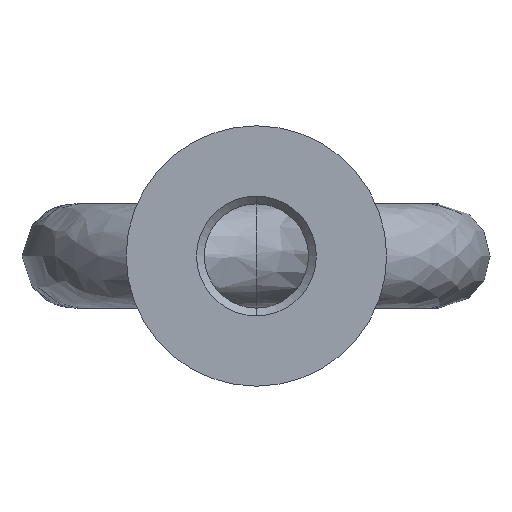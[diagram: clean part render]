
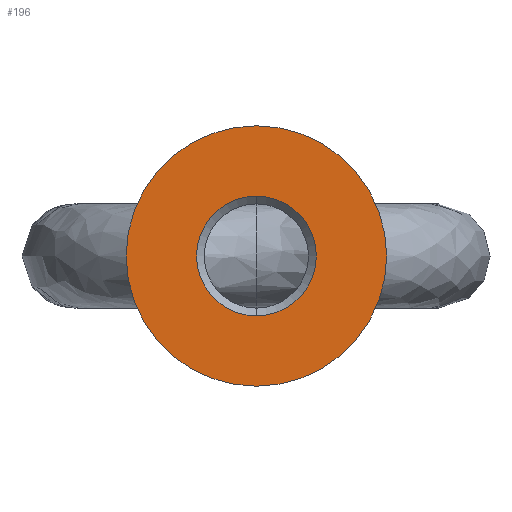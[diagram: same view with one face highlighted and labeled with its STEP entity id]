
A CAD part, front view. The second image highlights one B-rep face of the part: STEP entity #196.
In plain terms, the highlighted planar face has unit normal (0, -1, 0).
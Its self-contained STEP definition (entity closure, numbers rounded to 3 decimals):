
#39 = VERTEX_POINT ( 'NONE', #399 ) ;
#84 = AXIS2_PLACEMENT_3D ( 'NONE', #1993, #1297, #2686 ) ;
#86 = VERTEX_POINT ( 'NONE', #680 ) ;
#116 = ORIENTED_EDGE ( 'NONE', *, *, #1325, .F. ) ;
#196 = ADVANCED_FACE ( 'NONE', ( #1587, #2653 ), #2681, .T. ) ;
#267 = VERTEX_POINT ( 'NONE', #1531 ) ;
#285 = EDGE_LOOP ( 'NONE', ( #2727, #1635 ) ) ;
#399 = CARTESIAN_POINT ( 'NONE',  ( 0., 0., 10. ) ) ;
#457 = DIRECTION ( 'NONE',  ( 0., 0., -1. ) ) ;
#488 = EDGE_CURVE ( 'NONE', #267, #86, #1794, .T. ) ;
#510 = CIRCLE ( 'NONE', #84, 10. ) ;
#680 = CARTESIAN_POINT ( 'NONE',  ( 0., 0., 4.6 ) ) ;
#751 = CIRCLE ( 'NONE', #2882, 4.6 ) ;
#1019 = EDGE_CURVE ( 'NONE', #86, #267, #751, .T. ) ;
#1217 = CARTESIAN_POINT ( 'NONE',  ( 0., 0., -10. ) ) ;
#1297 = DIRECTION ( 'NONE',  ( 0., 1., 0. ) ) ;
#1325 = EDGE_CURVE ( 'NONE', #39, #2640, #510, .T. ) ;
#1442 = ORIENTED_EDGE ( 'NONE', *, *, #1950, .F. ) ;
#1466 = CIRCLE ( 'NONE', #2554, 10. ) ;
#1531 = CARTESIAN_POINT ( 'NONE',  ( 0., 0., -4.6 ) ) ;
#1587 = FACE_BOUND ( 'NONE', #285, .T. ) ;
#1635 = ORIENTED_EDGE ( 'NONE', *, *, #1019, .T. ) ;
#1657 = DIRECTION ( 'NONE',  ( 0., 1., 0. ) ) ;
#1794 = CIRCLE ( 'NONE', #2188, 4.6 ) ;
#1814 = CARTESIAN_POINT ( 'NONE',  ( 0., 0., 0. ) ) ;
#1888 = EDGE_LOOP ( 'NONE', ( #1442, #116 ) ) ;
#1950 = EDGE_CURVE ( 'NONE', #2640, #39, #1466, .T. ) ;
#1989 = DIRECTION ( 'NONE',  ( 0., -1., 0. ) ) ;
#1993 = CARTESIAN_POINT ( 'NONE',  ( 0., 0., 0. ) ) ;
#2054 = DIRECTION ( 'NONE',  ( 0., 1., 0. ) ) ;
#2118 = CARTESIAN_POINT ( 'NONE',  ( 0., 0., 0. ) ) ;
#2136 = DIRECTION ( 'NONE',  ( 0., 1., 0. ) ) ;
#2188 = AXIS2_PLACEMENT_3D ( 'NONE', #2390, #2136, #2590 ) ;
#2390 = CARTESIAN_POINT ( 'NONE',  ( 0., 0., 0. ) ) ;
#2470 = DIRECTION ( 'NONE',  ( 0., 0., 1. ) ) ;
#2494 = CARTESIAN_POINT ( 'NONE',  ( 0., 0., 0. ) ) ;
#2516 = DIRECTION ( 'NONE',  ( 0., 0., -1. ) ) ;
#2554 = AXIS2_PLACEMENT_3D ( 'NONE', #1814, #2054, #2470 ) ;
#2590 = DIRECTION ( 'NONE',  ( 0., 0., -1. ) ) ;
#2640 = VERTEX_POINT ( 'NONE', #1217 ) ;
#2653 = FACE_OUTER_BOUND ( 'NONE', #1888, .T. ) ;
#2681 = PLANE ( 'NONE',  #2859 ) ;
#2686 = DIRECTION ( 'NONE',  ( 0., 0., 1. ) ) ;
#2727 = ORIENTED_EDGE ( 'NONE', *, *, #488, .T. ) ;
#2859 = AXIS2_PLACEMENT_3D ( 'NONE', #2494, #1989, #457 ) ;
#2882 = AXIS2_PLACEMENT_3D ( 'NONE', #2118, #1657, #2516 ) ;
